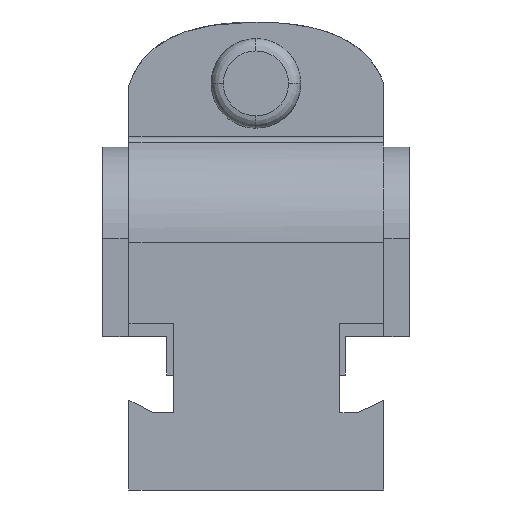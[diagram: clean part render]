
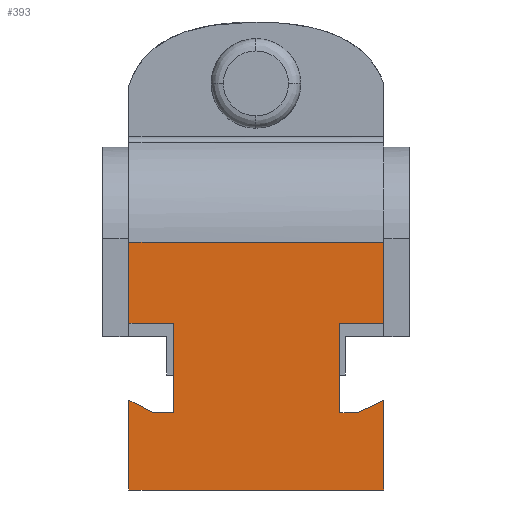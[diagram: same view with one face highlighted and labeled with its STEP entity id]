
A CAD part, left-side view. The second image highlights one B-rep face of the part: STEP entity #393.
In plain terms, the highlighted planar face has unit normal (-1, 0, 0).
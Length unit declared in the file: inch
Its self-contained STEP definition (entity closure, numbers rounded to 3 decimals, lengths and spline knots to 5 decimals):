
#371=EDGE_CURVE('',#1022,#1023,#1024,.T.);
#393=ADVANCED_FACE('',(#1059),#1060,.T.);
#419=EDGE_CURVE('',#991,#1099,#1100,.T.);
#423=EDGE_CURVE('',#1105,#1106,#1107,.T.);
#435=EDGE_CURVE('',#1125,#1126,#1127,.T.);
#457=EDGE_CURVE('',#1160,#1105,#1161,.T.);
#499=EDGE_CURVE('',#1223,#1224,#1225,.T.);
#513=EDGE_CURVE('',#991,#1106,#1246,.T.);
#569=EDGE_CURVE('',#1023,#1327,#1328,.T.);
#585=EDGE_CURVE('',#1209,#1125,#1349,.T.);
#607=EDGE_CURVE('',#1099,#1022,#1381,.T.);
#739=EDGE_CURVE('',#1224,#1046,#1568,.T.);
#741=EDGE_CURVE('',#1046,#1209,#1570,.T.);
#825=EDGE_CURVE('',#1126,#1160,#1679,.T.);
#875=EDGE_CURVE('',#1327,#1223,#1742,.T.);
#991=VERTEX_POINT('',#1881);
#1022=VERTEX_POINT('',#1935);
#1023=VERTEX_POINT('',#1936);
#1024=LINE('',#1937,#1938);
#1046=VERTEX_POINT('',#1975);
#1059=FACE_OUTER_BOUND('',#1999,.T.);
#1060=PLANE('',#2000);
#1099=VERTEX_POINT('',#2075);
#1100=LINE('',#2076,#2077);
#1105=VERTEX_POINT('',#2083);
#1106=VERTEX_POINT('',#2084);
#1107=LINE('',#2085,#2086);
#1125=VERTEX_POINT('',#2123);
#1126=VERTEX_POINT('',#2124);
#1127=LINE('',#2125,#2126);
#1160=VERTEX_POINT('',#2172);
#1161=LINE('',#2173,#2174);
#1209=VERTEX_POINT('',#2316);
#1223=VERTEX_POINT('',#2335);
#1224=VERTEX_POINT('',#2336);
#1225=LINE('',#2337,#2338);
#1246=LINE('',#2430,#2431);
#1327=VERTEX_POINT('',#2572);
#1328=LINE('',#2573,#2574);
#1349=LINE('',#2604,#2605);
#1381=LINE('',#2662,#2663);
#1568=LINE('',#2970,#2971);
#1570=LINE('',#2974,#2975);
#1679=LINE('',#3272,#3273);
#1742=LINE('',#3402,#3403);
#1881=CARTESIAN_POINT('',(0.,1.24627,1.21246));
#1935=CARTESIAN_POINT('',(0.,1.02777,0.81498));
#1936=CARTESIAN_POINT('',(0.,1.02777,0.37748));
#1937=CARTESIAN_POINT('',(0.,1.02777,0.60123));
#1938=VECTOR('',#3678,1.0);
#1975=CARTESIAN_POINT('',(0.,0.0,0.0));
#1999=EDGE_LOOP('',(#3718,#3719,#3720,#3721,#3722,#3723,#3724,#3725,#3726,#3727,#3728,#3729,#3730,#3731));
#2000=AXIS2_PLACEMENT_3D('',#3732,#3733,#3734);
#2075=CARTESIAN_POINT('',(0.,1.24627,0.81498));
#2076=CARTESIAN_POINT('',(0.,1.24627,1.00129));
#2077=VECTOR('',#3789,1.0);
#2083=CARTESIAN_POINT('',(0.,0.0,0.81498));
#2084=CARTESIAN_POINT('',(0.,0.0,1.21246));
#2085=CARTESIAN_POINT('',(0.,0.0,0.0));
#2086=VECTOR('',#3798,1.0);
#2123=CARTESIAN_POINT('',(0.,0.12731,0.37748));
#2124=CARTESIAN_POINT('',(0.,0.21527,0.37748));
#2125=CARTESIAN_POINT('',(0.,0.71064,0.37748));
#2126=VECTOR('',#3822,1.0);
#2172=CARTESIAN_POINT('',(0.,0.21527,0.81498));
#2173=CARTESIAN_POINT('',(0.,0.67788,0.81498));
#2174=VECTOR('',#3865,1.0);
#2316=CARTESIAN_POINT('',(0.,0.0,0.43823));
#2335=CARTESIAN_POINT('',(0.,1.24627,0.44001));
#2336=CARTESIAN_POINT('',(0.,1.24627,0.0));
#2337=CARTESIAN_POINT('',(0.,1.24627,0.39956));
#2338=VECTOR('',#3973,1.0);
#2430=CARTESIAN_POINT('',(0.,1.25,1.21246));
#2431=VECTOR('',#4008,1.0);
#2572=CARTESIAN_POINT('',(0.,1.12731,0.37748));
#2573=CARTESIAN_POINT('',(0.,1.16377,0.37748));
#2574=VECTOR('',#4113,1.0);
#2604=CARTESIAN_POINT('',(0.,0.50733,0.19614));
#2605=VECTOR('',#4149,1.0);
#2662=CARTESIAN_POINT('',(0.,1.19351,0.81498));
#2663=VECTOR('',#4200,1.0);
#2970=CARTESIAN_POINT('',(0.,1.25,0.0));
#2971=VECTOR('',#4527,1.0);
#2974=CARTESIAN_POINT('',(0.,0.0,0.0));
#2975=VECTOR('',#4528,1.0);
#3272=CARTESIAN_POINT('',(0.,0.21527,0.60123));
#3273=VECTOR('',#4731,1.0);
#3402=CARTESIAN_POINT('',(0.,1.25222,0.44314));
#3403=VECTOR('',#4852,1.0);
#3678=DIRECTION('',(0.0,-0.0,-1.0));
#3718=ORIENTED_EDGE('',*,*,#499,.T.);
#3719=ORIENTED_EDGE('',*,*,#739,.T.);
#3720=ORIENTED_EDGE('',*,*,#741,.T.);
#3721=ORIENTED_EDGE('',*,*,#585,.T.);
#3722=ORIENTED_EDGE('',*,*,#435,.T.);
#3723=ORIENTED_EDGE('',*,*,#825,.T.);
#3724=ORIENTED_EDGE('',*,*,#457,.T.);
#3725=ORIENTED_EDGE('',*,*,#423,.T.);
#3726=ORIENTED_EDGE('',*,*,#513,.F.);
#3727=ORIENTED_EDGE('',*,*,#419,.T.);
#3728=ORIENTED_EDGE('',*,*,#607,.T.);
#3729=ORIENTED_EDGE('',*,*,#371,.T.);
#3730=ORIENTED_EDGE('',*,*,#569,.T.);
#3731=ORIENTED_EDGE('',*,*,#875,.T.);
#3732=CARTESIAN_POINT('',(0.,1.25,0.60623));
#3733=DIRECTION('',(-1.0,0.0,0.0));
#3734=DIRECTION('',(0.0,0.0,-1.0));
#3789=DIRECTION('',(0.0,-0.0,-1.0));
#3798=DIRECTION('',(0.0,0.0,1.0));
#3822=DIRECTION('',(-0.0,1.0,-0.0));
#3865=DIRECTION('',(0.0,-1.0,0.0));
#3973=DIRECTION('',(0.0,-0.0,-1.0));
#4008=DIRECTION('',(0.0,-1.0,0.0));
#4113=DIRECTION('',(-0.0,1.0,-0.0));
#4149=DIRECTION('',(-0.0,0.903,-0.431));
#4200=DIRECTION('',(0.0,-1.0,0.0));
#4527=DIRECTION('',(0.0,-1.0,0.0));
#4528=DIRECTION('',(0.0,0.0,1.0));
#4731=DIRECTION('',(0.0,0.0,1.0));
#4852=DIRECTION('',(0.0,0.885,0.465));
